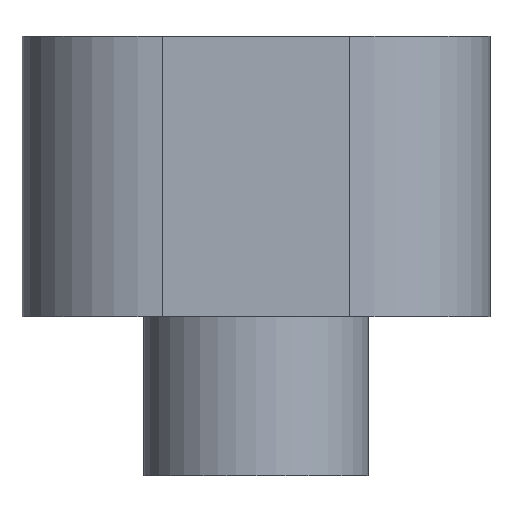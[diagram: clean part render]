
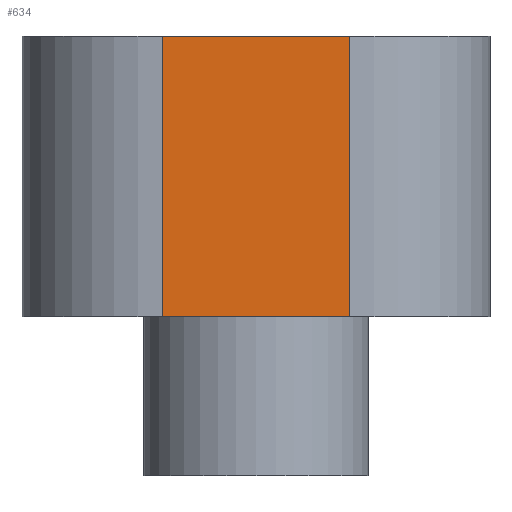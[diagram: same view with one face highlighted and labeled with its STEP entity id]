
A CAD part, front view. The second image highlights one B-rep face of the part: STEP entity #634.
In plain terms, the highlighted planar face has unit normal (0, -1, 0).
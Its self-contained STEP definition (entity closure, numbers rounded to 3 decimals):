
#62 = PLANE('',#63);
#63 = AXIS2_PLACEMENT_3D('',#64,#65,#66);
#64 = CARTESIAN_POINT('',(0.,0.,3.4));
#65 = DIRECTION('',(0.,0.,1.));
#66 = DIRECTION('',(1.,0.,-0.));
#90 = CYLINDRICAL_SURFACE('',#91,3.);
#91 = AXIS2_PLACEMENT_3D('',#92,#93,#94);
#92 = CARTESIAN_POINT('',(-2.,-7.,3.4));
#93 = DIRECTION('',(0.,0.,-1.));
#94 = DIRECTION('',(-1.,0.,0.));
#118 = PLANE('',#119);
#119 = AXIS2_PLACEMENT_3D('',#120,#121,#122);
#120 = CARTESIAN_POINT('',(0.,0.,9.4));
#121 = DIRECTION('',(0.,0.,1.));
#122 = DIRECTION('',(1.,0.,-0.));
#494 = CYLINDRICAL_SURFACE('',#495,3.);
#495 = AXIS2_PLACEMENT_3D('',#496,#497,#498);
#496 = CARTESIAN_POINT('',(2.,-7.,3.4));
#497 = DIRECTION('',(0.,0.,-1.));
#498 = DIRECTION('',(-1.,0.,0.));
#554 = VERTEX_POINT('',#555);
#555 = CARTESIAN_POINT('',(2.,-10.,9.4));
#581 = EDGE_CURVE('',#582,#554,#584,.T.);
#582 = VERTEX_POINT('',#583);
#583 = CARTESIAN_POINT('',(2.,-10.,3.4));
#584 = SURFACE_CURVE('',#585,(#589,#596),.PCURVE_S1.);
#585 = LINE('',#586,#587);
#586 = CARTESIAN_POINT('',(2.,-10.,3.4));
#587 = VECTOR('',#588,1.);
#588 = DIRECTION('',(0.,0.,1.));
#589 = PCURVE('',#494,#590);
#590 = DEFINITIONAL_REPRESENTATION('',(#591),#595);
#591 = LINE('',#592,#593);
#592 = CARTESIAN_POINT('',(4.712,0.));
#593 = VECTOR('',#594,1.);
#594 = DIRECTION('',(0.,-1.));
#595 = ( GEOMETRIC_REPRESENTATION_CONTEXT(2) 
PARAMETRIC_REPRESENTATION_CONTEXT() REPRESENTATION_CONTEXT('2D SPACE',''
  ) );
#596 = PCURVE('',#597,#602);
#597 = PLANE('',#598);
#598 = AXIS2_PLACEMENT_3D('',#599,#600,#601);
#599 = CARTESIAN_POINT('',(-2.,-10.,3.4));
#600 = DIRECTION('',(0.,1.,0.));
#601 = DIRECTION('',(1.,0.,0.));
#602 = DEFINITIONAL_REPRESENTATION('',(#603),#607);
#603 = LINE('',#604,#605);
#604 = CARTESIAN_POINT('',(4.,0.));
#605 = VECTOR('',#606,1.);
#606 = DIRECTION('',(0.,-1.));
#607 = ( GEOMETRIC_REPRESENTATION_CONTEXT(2) 
PARAMETRIC_REPRESENTATION_CONTEXT() REPRESENTATION_CONTEXT('2D SPACE',''
  ) );
#634 = ADVANCED_FACE('',(#635),#597,.F.);
#635 = FACE_BOUND('',#636,.F.);
#636 = EDGE_LOOP('',(#637,#662,#683,#684));
#637 = ORIENTED_EDGE('',*,*,#638,.T.);
#638 = EDGE_CURVE('',#639,#641,#643,.T.);
#639 = VERTEX_POINT('',#640);
#640 = CARTESIAN_POINT('',(-2.,-10.,3.4));
#641 = VERTEX_POINT('',#642);
#642 = CARTESIAN_POINT('',(-2.,-10.,9.4));
#643 = SURFACE_CURVE('',#644,(#648,#655),.PCURVE_S1.);
#644 = LINE('',#645,#646);
#645 = CARTESIAN_POINT('',(-2.,-10.,3.4));
#646 = VECTOR('',#647,1.);
#647 = DIRECTION('',(0.,0.,1.));
#648 = PCURVE('',#597,#649);
#649 = DEFINITIONAL_REPRESENTATION('',(#650),#654);
#650 = LINE('',#651,#652);
#651 = CARTESIAN_POINT('',(0.,0.));
#652 = VECTOR('',#653,1.);
#653 = DIRECTION('',(0.,-1.));
#654 = ( GEOMETRIC_REPRESENTATION_CONTEXT(2) 
PARAMETRIC_REPRESENTATION_CONTEXT() REPRESENTATION_CONTEXT('2D SPACE',''
  ) );
#655 = PCURVE('',#90,#656);
#656 = DEFINITIONAL_REPRESENTATION('',(#657),#661);
#657 = LINE('',#658,#659);
#658 = CARTESIAN_POINT('',(4.712,0.));
#659 = VECTOR('',#660,1.);
#660 = DIRECTION('',(0.,-1.));
#661 = ( GEOMETRIC_REPRESENTATION_CONTEXT(2) 
PARAMETRIC_REPRESENTATION_CONTEXT() REPRESENTATION_CONTEXT('2D SPACE',''
  ) );
#662 = ORIENTED_EDGE('',*,*,#663,.T.);
#663 = EDGE_CURVE('',#641,#554,#664,.T.);
#664 = SURFACE_CURVE('',#665,(#669,#676),.PCURVE_S1.);
#665 = LINE('',#666,#667);
#666 = CARTESIAN_POINT('',(0.,-10.,9.4));
#667 = VECTOR('',#668,1.);
#668 = DIRECTION('',(1.,0.,0.));
#669 = PCURVE('',#597,#670);
#670 = DEFINITIONAL_REPRESENTATION('',(#671),#675);
#671 = LINE('',#672,#673);
#672 = CARTESIAN_POINT('',(2.,-6.));
#673 = VECTOR('',#674,1.);
#674 = DIRECTION('',(1.,0.));
#675 = ( GEOMETRIC_REPRESENTATION_CONTEXT(2) 
PARAMETRIC_REPRESENTATION_CONTEXT() REPRESENTATION_CONTEXT('2D SPACE',''
  ) );
#676 = PCURVE('',#118,#677);
#677 = DEFINITIONAL_REPRESENTATION('',(#678),#682);
#678 = LINE('',#679,#680);
#679 = CARTESIAN_POINT('',(0.,-10.));
#680 = VECTOR('',#681,1.);
#681 = DIRECTION('',(1.,0.));
#682 = ( GEOMETRIC_REPRESENTATION_CONTEXT(2) 
PARAMETRIC_REPRESENTATION_CONTEXT() REPRESENTATION_CONTEXT('2D SPACE',''
  ) );
#683 = ORIENTED_EDGE('',*,*,#581,.F.);
#684 = ORIENTED_EDGE('',*,*,#685,.F.);
#685 = EDGE_CURVE('',#639,#582,#686,.T.);
#686 = SURFACE_CURVE('',#687,(#691,#698),.PCURVE_S1.);
#687 = LINE('',#688,#689);
#688 = CARTESIAN_POINT('',(0.,-10.,3.4));
#689 = VECTOR('',#690,1.);
#690 = DIRECTION('',(1.,0.,0.));
#691 = PCURVE('',#597,#692);
#692 = DEFINITIONAL_REPRESENTATION('',(#693),#697);
#693 = LINE('',#694,#695);
#694 = CARTESIAN_POINT('',(2.,0.));
#695 = VECTOR('',#696,1.);
#696 = DIRECTION('',(1.,0.));
#697 = ( GEOMETRIC_REPRESENTATION_CONTEXT(2) 
PARAMETRIC_REPRESENTATION_CONTEXT() REPRESENTATION_CONTEXT('2D SPACE',''
  ) );
#698 = PCURVE('',#62,#699);
#699 = DEFINITIONAL_REPRESENTATION('',(#700),#704);
#700 = LINE('',#701,#702);
#701 = CARTESIAN_POINT('',(0.,-10.));
#702 = VECTOR('',#703,1.);
#703 = DIRECTION('',(1.,0.));
#704 = ( GEOMETRIC_REPRESENTATION_CONTEXT(2) 
PARAMETRIC_REPRESENTATION_CONTEXT() REPRESENTATION_CONTEXT('2D SPACE',''
  ) );
